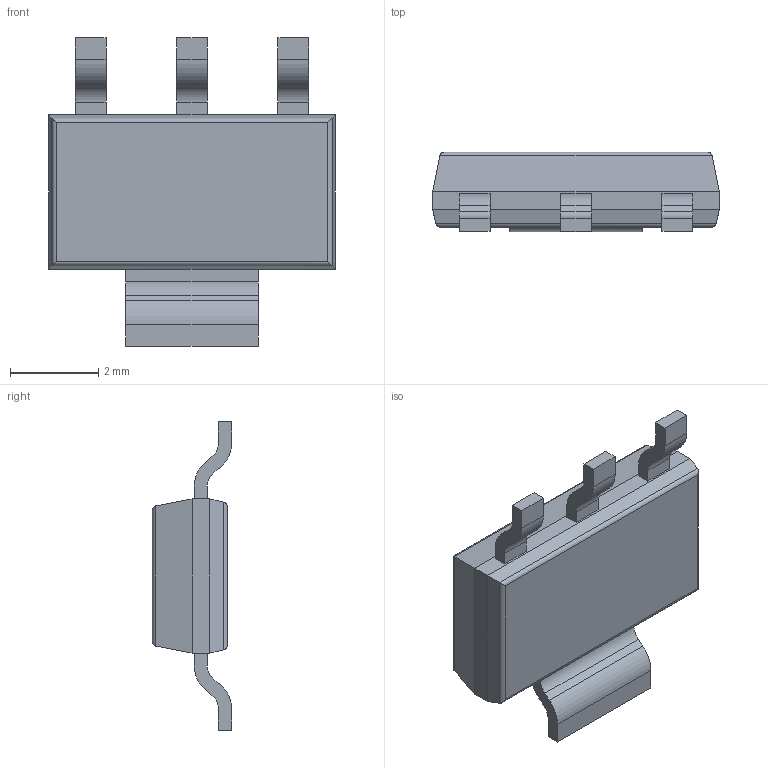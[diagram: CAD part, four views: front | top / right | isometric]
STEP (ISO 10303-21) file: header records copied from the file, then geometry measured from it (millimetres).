
FILE_DESCRIPTION (( 'STEP AP214' ), '1' );
FILE_NAME ( 'SOT230P700X180-4L40.STEP', '2014-04-11T12:31:22', ( '' ), ( '' ), 'FPX Expert 2013', 'PCB Libraries', '' );
FILE_SCHEMA (( 'AUTOMOTIVE_DESIGN' ));
Length unit declared in the file: millimetre
Products named in the file (1): SOT230P700X180-4L40
Bounding box: 6.5 x 1.8 x 7 mm (x, y, z)
Volume: 39.6 mm3; surface area: 100.7 mm2
Topology: 5 solids, 5 shells, 81 faces, 194 edges, 124 vertices
Faces by surface type: plane 55, cylinder 24, torus 2
Entity records: 2639 total; most frequent: CARTESIAN_POINT 424, DIRECTION 388, ORIENTED_EDGE 388, EDGE_CURVE 194, VECTOR 148, LINE 148, VERTEX_POINT 124, AXIS2_PLACEMENT_3D 120
